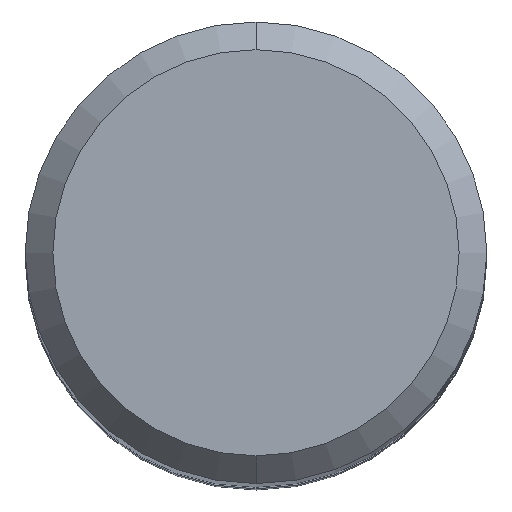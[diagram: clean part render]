
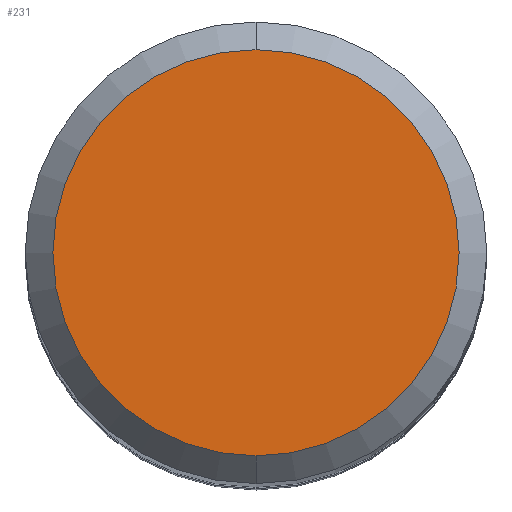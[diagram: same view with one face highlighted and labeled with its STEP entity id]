
A CAD part, top view. The second image highlights one B-rep face of the part: STEP entity #231.
In plain terms, the highlighted free-form (B-spline) face has degree [1, 1] with [2, 2] control points.
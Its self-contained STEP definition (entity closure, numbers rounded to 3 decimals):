
#38=CARTESIAN_POINT('',(0.,0.,0.));
#39=DIRECTION('',(0.,0.,1.));
#40=DIRECTION('',(0.,1.,0.));
#41=AXIS2_PLACEMENT_3D('',#38,#39,#40);
#43=CARTESIAN_POINT('',(0.,0.,0.));
#44=DIRECTION('',(0.,0.,-1.));
#45=DIRECTION('',(0.,1.,0.));
#46=AXIS2_PLACEMENT_3D('',#43,#44,#45);
#138=CARTESIAN_POINT('',(0.,4.4,0.));
#139=VERTEX_POINT('',#138);
#140=CARTESIAN_POINT('',(0.,-4.4,0.));
#141=VERTEX_POINT('',#140);
#222=CARTESIAN_POINT('',(4.577,4.576,0.));
#223=CARTESIAN_POINT('',(-4.577,4.576,0.));
#224=CARTESIAN_POINT('',(4.577,-4.576,0.));
#225=CARTESIAN_POINT('',(-4.577,-4.576,0.));
#226=B_SPLINE_SURFACE_WITH_KNOTS('',1,1,((#222,#223),(#224,#225)),.UNSPECIFIED.,
.F.,.F.,.F.,(2,2),(2,2),(-4.576,4.576),(-4.577,4.577),
.UNSPECIFIED.);
#227=ORIENTED_EDGE('',*,*,#207,.F.);
#228=ORIENTED_EDGE('',*,*,#175,.T.);
#229=EDGE_LOOP('',(#227,#228));
#230=FACE_OUTER_BOUND('',#229,.F.);
#42=CIRCLE('',#41,4.4);
#47=CIRCLE('',#46,4.4);
#175=EDGE_CURVE('',#139,#141,#47,.T.);
#207=EDGE_CURVE('',#139,#141,#42,.T.);
#231=ADVANCED_FACE('',(#230),#226,.F.);
